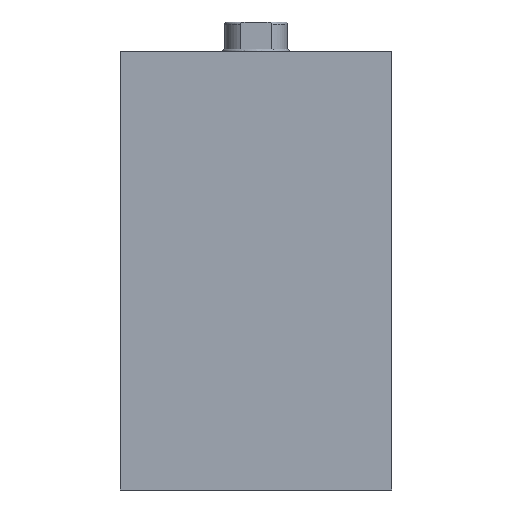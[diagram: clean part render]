
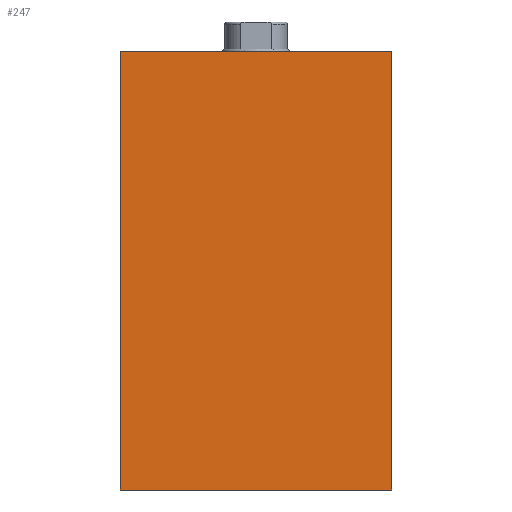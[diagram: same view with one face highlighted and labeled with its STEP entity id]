
A CAD part, left-side view. The second image highlights one B-rep face of the part: STEP entity #247.
In plain terms, the highlighted planar face has unit normal (-1, 0, 0) as drawn and (0, 0, -1) by its records, which use the part's own axes.
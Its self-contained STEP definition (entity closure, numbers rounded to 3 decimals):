
#247 = ADVANCED_FACE( '', ( #338 ), #339, .F. );
#338 = FACE_OUTER_BOUND( '', #554, .T. );
#339 = PLANE( '', #555 );
#554 = EDGE_LOOP( '', ( #789, #790, #791, #792 ) );
#555 = AXIS2_PLACEMENT_3D( '', #793, #794, #795 );
#789 = ORIENTED_EDGE( '', *, *, #1166, .T. );
#790 = ORIENTED_EDGE( '', *, *, #1183, .F. );
#791 = ORIENTED_EDGE( '', *, *, #1178, .F. );
#792 = ORIENTED_EDGE( '', *, *, #1182, .T. );
#793 = CARTESIAN_POINT( '', ( 105., -32.5, -22.5 ) );
#794 = DIRECTION( '', ( 0., 0., 1. ) );
#795 = DIRECTION( '', ( 1., 0., 0. ) );
#1166 = EDGE_CURVE( '', #1267, #1265, #1268, .T. );
#1178 = EDGE_CURVE( '', #1287, #1289, #1290, .T. );
#1182 = EDGE_CURVE( '', #1287, #1267, #1296, .T. );
#1183 = EDGE_CURVE( '', #1289, #1265, #1297, .T. );
#1265 = VERTEX_POINT( '', #1510 );
#1267 = VERTEX_POINT( '', #1513 );
#1268 = LINE( '', #1514, #1515 );
#1287 = VERTEX_POINT( '', #1706 );
#1289 = VERTEX_POINT( '', #1709 );
#1290 = LINE( '', #1710, #1711 );
#1296 = B_SPLINE_CURVE_WITH_KNOTS( '', 1, ( #1784, #1785 ), .UNSPECIFIED., .F., .F., ( 2, 2 ), ( 0., 1. ), .UNSPECIFIED. );
#1297 = B_SPLINE_CURVE_WITH_KNOTS( '', 1, ( #1786, #1787 ), .UNSPECIFIED., .F., .F., ( 2, 2 ), ( 0., 1. ), .UNSPECIFIED. );
#1510 = CARTESIAN_POINT( '', ( 0., 32.5, -22.5 ) );
#1513 = CARTESIAN_POINT( '', ( 0., -32.5, -22.5 ) );
#1514 = CARTESIAN_POINT( '', ( 0., -32.5, -22.5 ) );
#1515 = VECTOR( '', #3898, 1000. );
#1706 = CARTESIAN_POINT( '', ( 105., -32.5, -22.5 ) );
#1709 = CARTESIAN_POINT( '', ( 105., 32.5, -22.5 ) );
#1710 = CARTESIAN_POINT( '', ( 105., -32.5, -22.5 ) );
#1711 = VECTOR( '', #3905, 1000. );
#1784 = CARTESIAN_POINT( '', ( 105., -32.5, -22.5 ) );
#1785 = CARTESIAN_POINT( '', ( 0., -32.5, -22.5 ) );
#1786 = CARTESIAN_POINT( '', ( 105., 32.5, -22.5 ) );
#1787 = CARTESIAN_POINT( '', ( 0., 32.5, -22.5 ) );
#3898 = DIRECTION( '', ( 0., 1., 0. ) );
#3905 = DIRECTION( '', ( 0., 1., 0. ) );
